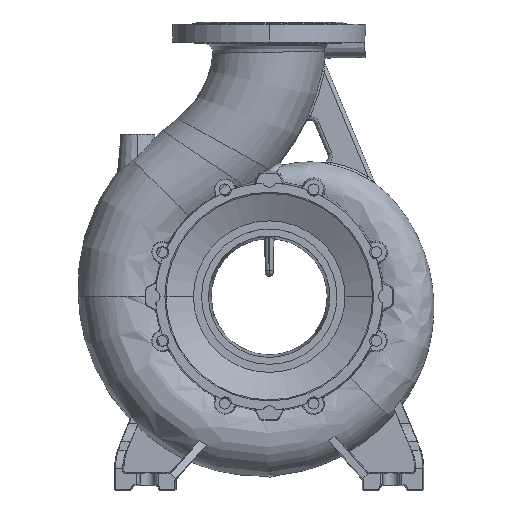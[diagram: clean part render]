
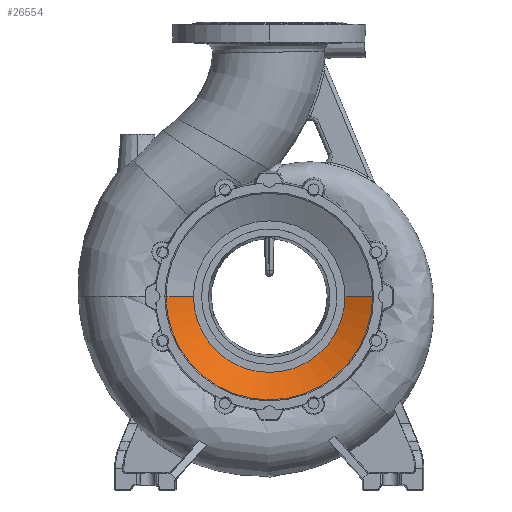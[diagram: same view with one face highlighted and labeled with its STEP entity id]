
A CAD part, top view. The second image highlights one B-rep face of the part: STEP entity #26554.
In plain terms, the highlighted conical face has half-angle 64.093 degrees and reference radius 95.609 mm.
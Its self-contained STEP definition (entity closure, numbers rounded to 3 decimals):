
#147 = CARTESIAN_POINT ( 'NONE',  ( -98., 0., -47.5 ) ) ;
#327 = CARTESIAN_POINT ( 'NONE',  ( 0., 0., -30.227 ) ) ;
#875 = AXIS2_PLACEMENT_3D ( 'NONE', #15259, #34232, #18005 ) ;
#995 = CONICAL_SURFACE ( 'NONE', #9538, 95.609, 1.119 ) ;
#3052 = DIRECTION ( 'NONE',  ( 1., 0., 0. ) ) ;
#3224 = EDGE_CURVE ( 'NONE', #19517, #3613, #23156, .T. ) ;
#3506 = AXIS2_PLACEMENT_3D ( 'NONE', #327, #19345, #3052 ) ;
#3613 = VERTEX_POINT ( 'NONE', #3859 ) ;
#3859 = CARTESIAN_POINT ( 'NONE',  ( 133.562, 0., -30.227 ) ) ;
#3928 = CARTESIAN_POINT ( 'NONE',  ( 98., 0., -47.5 ) ) ;
#5155 = CARTESIAN_POINT ( 'NONE',  ( -133.562, 0., -30.227 ) ) ;
#6793 = DIRECTION ( 'NONE',  ( 0.9, 0., 0.437 ) ) ;
#9206 = DIRECTION ( 'NONE',  ( 1., 0., 0. ) ) ;
#9538 = AXIS2_PLACEMENT_3D ( 'NONE', #14762, #28174, #9206 ) ;
#10711 = CARTESIAN_POINT ( 'NONE',  ( -95.609, 0., -48.661 ) ) ;
#11099 = CIRCLE ( 'NONE', #875, 98. ) ;
#12314 = EDGE_CURVE ( 'NONE', #24954, #17688, #11099, .T. ) ;
#12784 = EDGE_CURVE ( 'NONE', #24954, #3613, #14879, .T. ) ;
#13182 = VECTOR ( 'NONE', #6793, 1000. ) ;
#14762 = CARTESIAN_POINT ( 'NONE',  ( 0., 0., -48.661 ) ) ;
#14879 = LINE ( 'NONE', #23079, #13182 ) ;
#15259 = CARTESIAN_POINT ( 'NONE',  ( 0., 0., -47.5 ) ) ;
#16334 = FACE_OUTER_BOUND ( 'NONE', #22766, .T. ) ;
#17688 = VERTEX_POINT ( 'NONE', #147 ) ;
#18005 = DIRECTION ( 'NONE',  ( 1., 0., 0. ) ) ;
#19345 = DIRECTION ( 'NONE',  ( 0., 0., 1. ) ) ;
#19517 = VERTEX_POINT ( 'NONE', #5155 ) ;
#22720 = ORIENTED_EDGE ( 'NONE', *, *, #3224, .T. ) ;
#22766 = EDGE_LOOP ( 'NONE', ( #32069, #34751, #22720, #34740 ) ) ;
#23079 = CARTESIAN_POINT ( 'NONE',  ( 95.609, 0., -48.661 ) ) ;
#23156 = CIRCLE ( 'NONE', #3506, 133.562 ) ;
#23425 = LINE ( 'NONE', #10711, #28061 ) ;
#24954 = VERTEX_POINT ( 'NONE', #3928 ) ;
#26554 = ADVANCED_FACE ( 'NONE', ( #16334 ), #995, .F. ) ;
#28061 = VECTOR ( 'NONE', #32038, 1000. ) ;
#28174 = DIRECTION ( 'NONE',  ( 0., 0., 1. ) ) ;
#32038 = DIRECTION ( 'NONE',  ( -0.9, 0., 0.437 ) ) ;
#32069 = ORIENTED_EDGE ( 'NONE', *, *, #12314, .T. ) ;
#34232 = DIRECTION ( 'NONE',  ( 0., 0., -1. ) ) ;
#34740 = ORIENTED_EDGE ( 'NONE', *, *, #12784, .F. ) ;
#34751 = ORIENTED_EDGE ( 'NONE', *, *, #35072, .T. ) ;
#35072 = EDGE_CURVE ( 'NONE', #17688, #19517, #23425, .T. ) ;
